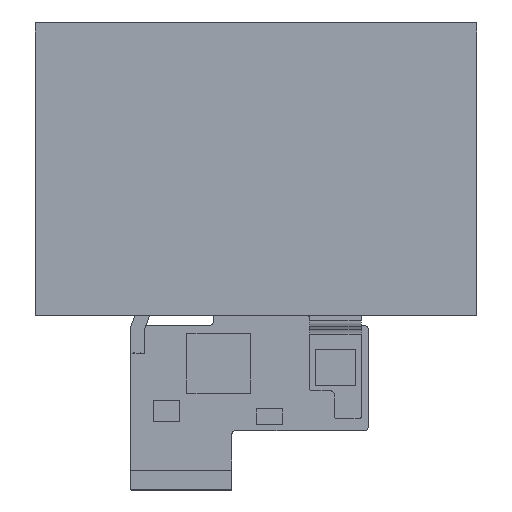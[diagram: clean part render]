
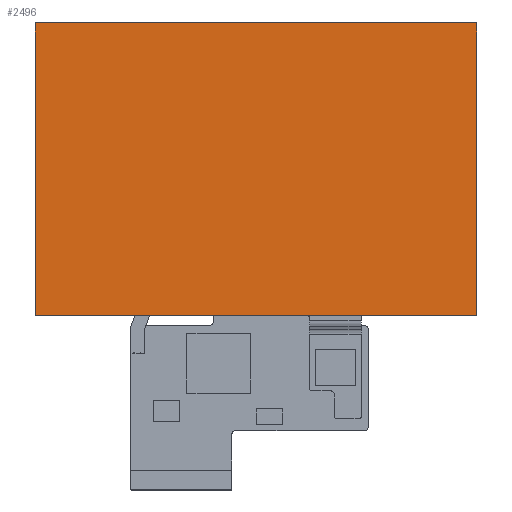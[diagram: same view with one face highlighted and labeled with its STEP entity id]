
A CAD part, top view. The second image highlights one B-rep face of the part: STEP entity #2496.
In plain terms, the highlighted planar face has unit normal (0, 0, 1).
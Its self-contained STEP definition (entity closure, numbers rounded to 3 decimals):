
#165=CARTESIAN_POINT('',(-55.25,-38.436,2.775));
#166=DIRECTION('',(0.,0.,1.));
#167=DIRECTION('',(-1.,0.,0.));
#168=AXIS2_PLACEMENT_3D('',#165,#166,#167);
#170=DIRECTION('',(0.,-1.,0.));
#171=VECTOR('',#170,73.096);
#172=CARTESIAN_POINT('',(-55.75,34.66,2.775));
#173=LINE('',#172,#171);
#174=CARTESIAN_POINT('',(-55.25,34.66,2.775));
#175=DIRECTION('',(0.,0.,1.));
#176=DIRECTION('',(0.,1.,0.));
#177=AXIS2_PLACEMENT_3D('',#174,#175,#176);
#179=DIRECTION('',(-1.,0.,0.));
#180=VECTOR('',#179,110.5);
#181=CARTESIAN_POINT('',(55.25,35.16,2.775));
#182=LINE('',#181,#180);
#183=CARTESIAN_POINT('',(55.25,34.66,2.775));
#184=DIRECTION('',(0.,0.,1.));
#185=DIRECTION('',(1.,0.,0.));
#186=AXIS2_PLACEMENT_3D('',#183,#184,#185);
#188=DIRECTION('',(0.,1.,0.));
#189=VECTOR('',#188,73.096);
#190=CARTESIAN_POINT('',(55.75,-38.436,2.775));
#191=LINE('',#190,#189);
#192=CARTESIAN_POINT('',(55.25,-38.436,2.775));
#193=DIRECTION('',(0.,0.,1.));
#194=DIRECTION('',(0.,-1.,0.));
#195=AXIS2_PLACEMENT_3D('',#192,#193,#194);
#197=DIRECTION('',(1.,0.,0.));
#198=VECTOR('',#197,110.5);
#199=CARTESIAN_POINT('',(-55.25,-38.936,2.775));
#200=LINE('',#199,#198);
#1749=CARTESIAN_POINT('',(-55.75,-38.436,2.775));
#1750=CARTESIAN_POINT('',(-55.25,-38.936,2.775));
#1751=VERTEX_POINT('',#1749);
#1752=VERTEX_POINT('',#1750);
#1753=CARTESIAN_POINT('',(55.25,-38.936,2.775));
#1754=VERTEX_POINT('',#1753);
#1755=CARTESIAN_POINT('',(55.75,-38.436,2.775));
#1756=VERTEX_POINT('',#1755);
#1757=CARTESIAN_POINT('',(55.75,34.66,2.775));
#1758=VERTEX_POINT('',#1757);
#1759=CARTESIAN_POINT('',(55.25,35.16,2.775));
#1760=VERTEX_POINT('',#1759);
#1761=CARTESIAN_POINT('',(-55.25,35.16,2.775));
#1762=VERTEX_POINT('',#1761);
#1763=CARTESIAN_POINT('',(-55.75,34.66,2.775));
#1764=VERTEX_POINT('',#1763);
#2481=CARTESIAN_POINT('',(0.,0.,2.775));
#2482=DIRECTION('',(0.,0.,1.));
#2483=DIRECTION('',(1.,0.,0.));
#2484=AXIS2_PLACEMENT_3D('',#2481,#2482,#2483);
#2485=PLANE('',#2484);
#2486=ORIENTED_EDGE('',*,*,#2377,.F.);
#2487=ORIENTED_EDGE('',*,*,#2392,.F.);
#2488=ORIENTED_EDGE('',*,*,#2406,.F.);
#2489=ORIENTED_EDGE('',*,*,#2420,.F.);
#2490=ORIENTED_EDGE('',*,*,#2434,.F.);
#2491=ORIENTED_EDGE('',*,*,#2448,.F.);
#2492=ORIENTED_EDGE('',*,*,#2462,.F.);
#2493=ORIENTED_EDGE('',*,*,#2475,.F.);
#2494=EDGE_LOOP('',(#2486,#2487,#2488,#2489,#2490,#2491,#2492,#2493));
#2495=FACE_OUTER_BOUND('',#2494,.F.);
#169=CIRCLE('',#168,0.5);
#178=CIRCLE('',#177,0.5);
#187=CIRCLE('',#186,0.5);
#196=CIRCLE('',#195,0.5);
#2377=EDGE_CURVE('',#1751,#1752,#169,.T.);
#2392=EDGE_CURVE('',#1764,#1751,#173,.T.);
#2406=EDGE_CURVE('',#1762,#1764,#178,.T.);
#2420=EDGE_CURVE('',#1760,#1762,#182,.T.);
#2434=EDGE_CURVE('',#1758,#1760,#187,.T.);
#2448=EDGE_CURVE('',#1756,#1758,#191,.T.);
#2462=EDGE_CURVE('',#1754,#1756,#196,.T.);
#2475=EDGE_CURVE('',#1752,#1754,#200,.T.);
#2496=ADVANCED_FACE('',(#2495),#2485,.T.);
